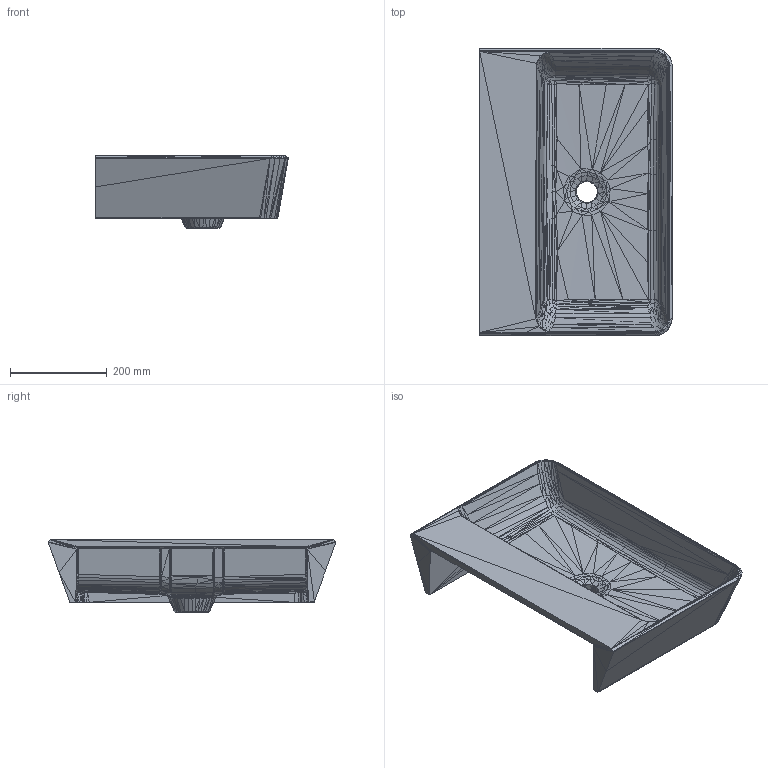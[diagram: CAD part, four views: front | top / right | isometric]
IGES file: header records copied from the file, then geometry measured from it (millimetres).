
Global section: file name: C:\Users\Sam Altman L JackSon\Downloads\Additional 2D and 3D files required for V+A NPD\Vetralla 60 0 holes\Vetralla 60 0 hole - 3d igs.igs; native system: Rhinoceros ( Mar  4 2026 ); preprocessor: Trout Lake IGES 012 Mar  4 2026; date: 260508.110617; units: millimetre
Bounding box: 398.99 x 595.85 x 151.09 mm (x, y, z)
Surface area: 869602.1 mm2 (no closed solid volume)
Topology: 0 solids, 0 shells, 2660 faces, 8355 edges, 8355 vertices
Faces by surface type: bspline 2660
